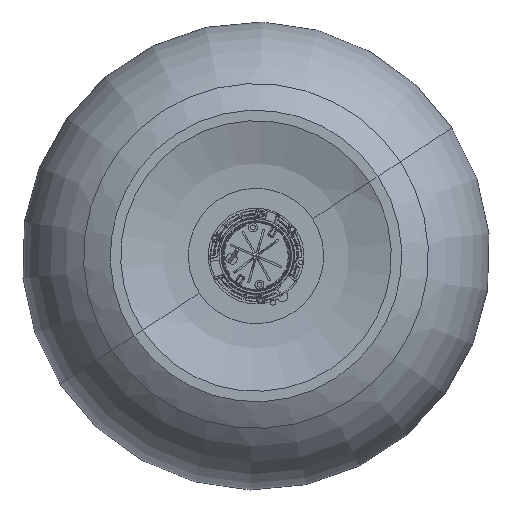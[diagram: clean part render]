
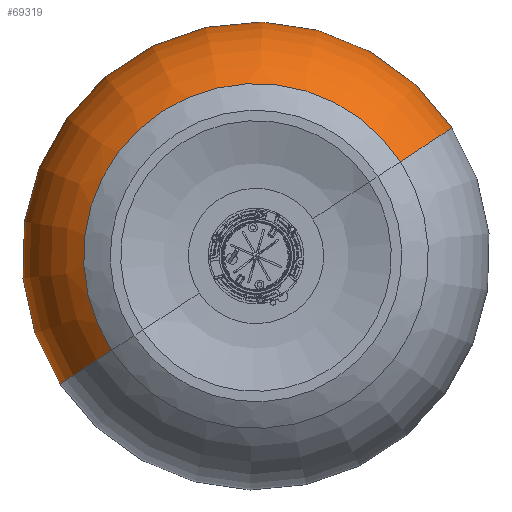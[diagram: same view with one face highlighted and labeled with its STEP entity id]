
A CAD part, front view. The second image highlights one B-rep face of the part: STEP entity #69319.
In plain terms, the highlighted toroidal (fillet/blend) face has major radius 82.534 mm and minor radius 125 mm.
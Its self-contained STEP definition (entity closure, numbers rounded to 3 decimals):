
#4491 = CARTESIAN_POINT ( 'NONE',  ( 0., -60.861, 0. ) ) ;
#5122 = VERTEX_POINT ( 'NONE', #32345 ) ;
#5209 = DIRECTION ( 'NONE',  ( 0.837, 0., 0.547 ) ) ;
#6117 = ORIENTED_EDGE ( 'NONE', *, *, #64596, .F. ) ;
#6552 = VERTEX_POINT ( 'NONE', #63899 ) ;
#7113 = CARTESIAN_POINT ( 'NONE',  ( 0., -139.545, 0. ) ) ;
#7921 = CARTESIAN_POINT ( 'NONE',  ( -150.407, -60.861, -98.265 ) ) ;
#9541 = EDGE_CURVE ( 'NONE', #59360, #5122, #27082, .T. ) ;
#9802 = DIRECTION ( 'NONE',  ( 0.547, 0., -0.837 ) ) ;
#13575 = CIRCLE ( 'NONE', #63653, 179.661 ) ;
#15411 = AXIS2_PLACEMENT_3D ( 'NONE', #59797, #9802, #32103 ) ;
#17427 = CIRCLE ( 'NONE', #65180, 125. ) ;
#20371 = AXIS2_PLACEMENT_3D ( 'NONE', #7113, #51670, #35230 ) ;
#22063 = CARTESIAN_POINT ( 'NONE',  ( -69.095, -139.545, -45.141 ) ) ;
#24918 = EDGE_CURVE ( 'NONE', #59360, #36050, #13575, .T. ) ;
#27082 = CIRCLE ( 'NONE', #15411, 125. ) ;
#27502 = CARTESIAN_POINT ( 'NONE',  ( 0., -242.884, 0. ) ) ;
#32103 = DIRECTION ( 'NONE',  ( -0.837, 0., -0.547 ) ) ;
#32345 = CARTESIAN_POINT ( 'NONE',  ( 127.971, -242.884, 83.607 ) ) ;
#35230 = DIRECTION ( 'NONE',  ( 0.837, 0., 0.547 ) ) ;
#36050 = VERTEX_POINT ( 'NONE', #7921 ) ;
#39198 = DIRECTION ( 'NONE',  ( 0., -1., 0. ) ) ;
#43209 = EDGE_CURVE ( 'NONE', #36050, #6552, #17427, .T. ) ;
#44578 = DIRECTION ( 'NONE',  ( 0.837, 0., 0.547 ) ) ;
#49869 = ORIENTED_EDGE ( 'NONE', *, *, #9541, .F. ) ;
#51152 = ORIENTED_EDGE ( 'NONE', *, *, #24918, .T. ) ;
#51670 = DIRECTION ( 'NONE',  ( 0., -1., 0. ) ) ;
#51837 = TOROIDAL_SURFACE ( 'NONE', #20371, 82.534, 125. ) ;
#56789 = AXIS2_PLACEMENT_3D ( 'NONE', #27502, #61025, #44578 ) ;
#58170 = FACE_OUTER_BOUND ( 'NONE', #67489, .T. ) ;
#59360 = VERTEX_POINT ( 'NONE', #67446 ) ;
#59797 = CARTESIAN_POINT ( 'NONE',  ( 69.095, -139.545, 45.141 ) ) ;
#61025 = DIRECTION ( 'NONE',  ( 0., -1., 0. ) ) ;
#61342 = ORIENTED_EDGE ( 'NONE', *, *, #43209, .T. ) ;
#63653 = AXIS2_PLACEMENT_3D ( 'NONE', #4491, #39198, #66937 ) ;
#63899 = CARTESIAN_POINT ( 'NONE',  ( -127.971, -242.884, -83.607 ) ) ;
#64596 = EDGE_CURVE ( 'NONE', #5122, #6552, #67334, .T. ) ;
#65180 = AXIS2_PLACEMENT_3D ( 'NONE', #22063, #66190, #5209 ) ;
#66190 = DIRECTION ( 'NONE',  ( -0.547, 0., 0.837 ) ) ;
#66937 = DIRECTION ( 'NONE',  ( 0.837, 0., 0.547 ) ) ;
#67334 = CIRCLE ( 'NONE', #56789, 152.861 ) ;
#67446 = CARTESIAN_POINT ( 'NONE',  ( 150.407, -60.861, 98.265 ) ) ;
#67489 = EDGE_LOOP ( 'NONE', ( #51152, #61342, #6117, #49869 ) ) ;
#69319 = ADVANCED_FACE ( 'NONE', ( #58170 ), #51837, .T. ) ;
